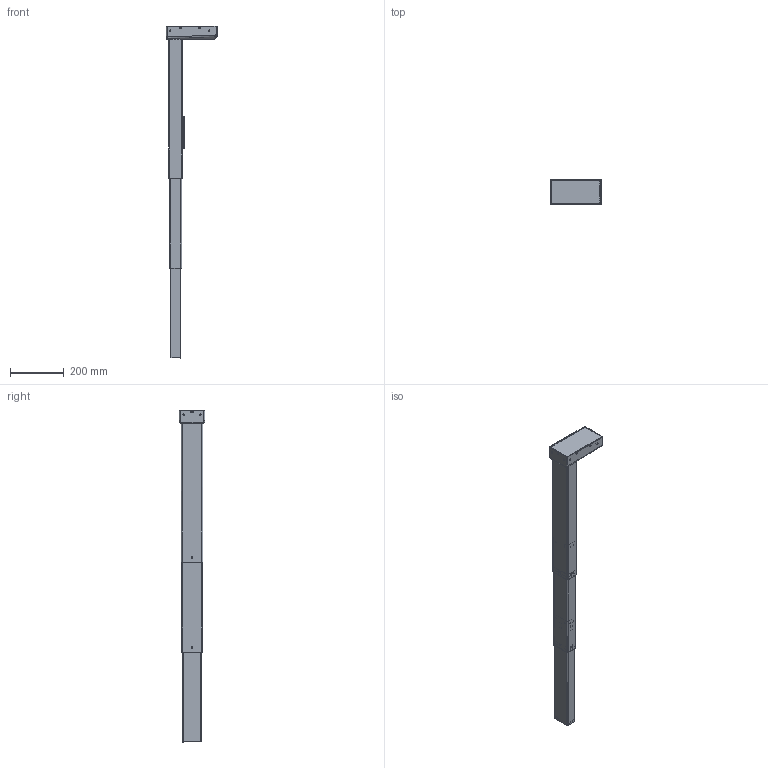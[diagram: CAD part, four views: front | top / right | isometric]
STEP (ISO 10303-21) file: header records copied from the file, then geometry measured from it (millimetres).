
FILE_DESCRIPTION(/* description */ ('Unknown'),/* implementation_level */ '2;1');
FILE_NAME(/* name */ '804.00047_00-ausgefahren',/* time_stamp */ '2026-07-29T14:13:01+02:00',/* author */ ('Unknown'),/* organization */ ('Unknown'),/* preprocessor_version */ 'ST-DEVELOPER v20',/* originating_system */ 'Solid Edge',/* authorisation */ 'Unknown');
FILE_SCHEMA (('AUTOMOTIVE_DESIGN {1 0 10303 214 3 1 1}'));
Length unit declared in the file: millimetre
Products named in the file (4): 804.00047; EBI Mittelprofil; EBI Innenprofil; EBI S Aussenprofil
Assembly tree (3 placements, depth 2):
  804.00047
    EBI Mittelprofil
    EBI Innenprofil
    EBI S Aussenprofil
Bounding box: 192.25 x 96 x 1235 mm (x, y, z)
Volume: 682477.4 mm3; surface area: 833990.9 mm2
Topology: 5 solids, 5 shells, 938 faces, 2728 edges, 1800 vertices
Faces by surface type: plane 558, cylinder 282, cone 26, sphere 24, torus 24, bspline 24
Full cylindrical faces by diameter (mm): 4.5 x4, 5 x10, 5.6 x16, 6 x1, 6.8 x2, 7.2 x6
Entity records: 39163 total; most frequent: CARTESIAN_POINT 7500, ORIENTED_EDGE 5448, DIRECTION 4988, EDGE_CURVE 2724, VERTEX_POINT 1800, LINE 1768, VECTOR 1768, AXIS2_PLACEMENT_3D 1610
